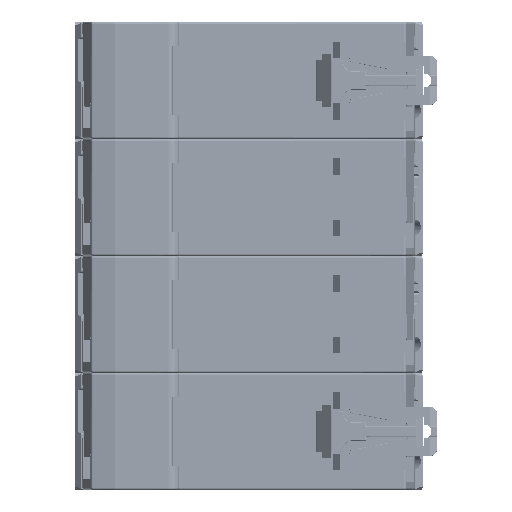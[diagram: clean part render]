
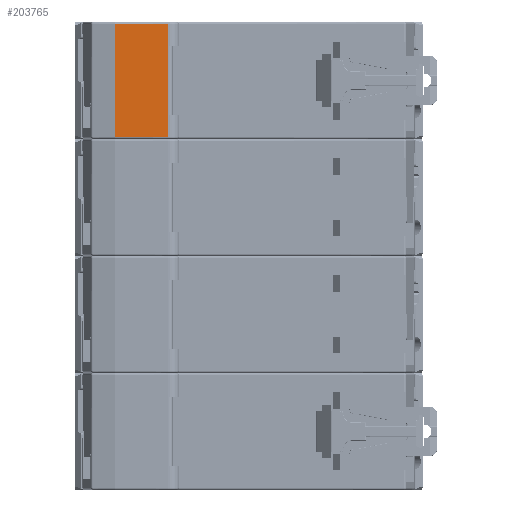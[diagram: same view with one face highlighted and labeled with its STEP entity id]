
A CAD part, left-side view. The second image highlights one B-rep face of the part: STEP entity #203765.
In plain terms, the highlighted planar face has unit normal (-1, 0, 0) as drawn and (0, -1, 0) by its records, which use the part's own axes.
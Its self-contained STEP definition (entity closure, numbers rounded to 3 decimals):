
#7398 = VERTEX_POINT ( 'NONE', #297002 ) ;
#8083 = VERTEX_POINT ( 'NONE', #162251 ) ;
#8720 = ORIENTED_EDGE ( 'NONE', *, *, #340386, .T. ) ;
#12219 = EDGE_CURVE ( 'NONE', #78553, #25550, #212366, .T. ) ;
#25550 = VERTEX_POINT ( 'NONE', #191006 ) ;
#62346 = VECTOR ( 'NONE', #348171, 1000. ) ;
#78553 = VERTEX_POINT ( 'NONE', #106053 ) ;
#82358 = AXIS2_PLACEMENT_3D ( 'NONE', #213301, #120835, #309826 ) ;
#85538 = VECTOR ( 'NONE', #137058, 1000. ) ;
#86754 = DIRECTION ( 'NONE',  ( 0., 0., -1. ) ) ;
#99667 = CARTESIAN_POINT ( 'NONE',  ( 18.5, -5.5, 21.5 ) ) ;
#103186 = CARTESIAN_POINT ( 'NONE',  ( 18.5, -5.5, 5.5 ) ) ;
#106053 = CARTESIAN_POINT ( 'NONE',  ( 30.759, -5.5, 0.5 ) ) ;
#118768 = FACE_OUTER_BOUND ( 'NONE', #194336, .T. ) ;
#120835 = DIRECTION ( 'NONE',  ( 0., 1., 0. ) ) ;
#137058 = DIRECTION ( 'NONE',  ( 0., 0., 1. ) ) ;
#144027 = VERTEX_POINT ( 'NONE', #184060 ) ;
#147627 = LINE ( 'NONE', #284006, #295640 ) ;
#149484 = EDGE_CURVE ( 'NONE', #25550, #144027, #372654, .T. ) ;
#162251 = CARTESIAN_POINT ( 'NONE',  ( 18.5, -5.5, 0.5 ) ) ;
#182976 = EDGE_CURVE ( 'NONE', #144027, #354840, #147627, .T. ) ;
#184060 = CARTESIAN_POINT ( 'NONE',  ( 18.5, -5.5, 26.5 ) ) ;
#187791 = CARTESIAN_POINT ( 'NONE',  ( 30.759, -5.5, 26.5 ) ) ;
#191006 = CARTESIAN_POINT ( 'NONE',  ( 30.759, -5.5, 26.5 ) ) ;
#194336 = EDGE_LOOP ( 'NONE', ( #8720, #252210, #206828, #350724, #199776, #389603 ) ) ;
#197691 = LINE ( 'NONE', #103186, #295775 ) ;
#199776 = ORIENTED_EDGE ( 'NONE', *, *, #182976, .T. ) ;
#203765 = ADVANCED_FACE ( 'NONE', ( #118768 ), #219472, .F. ) ;
#205935 = DIRECTION ( 'NONE',  ( 0., 0., -1. ) ) ;
#206828 = ORIENTED_EDGE ( 'NONE', *, *, #12219, .T. ) ;
#212366 = LINE ( 'NONE', #340374, #221999 ) ;
#213301 = CARTESIAN_POINT ( 'NONE',  ( 15.15, -5.5, 1.8 ) ) ;
#219472 = PLANE ( 'NONE',  #82358 ) ;
#221999 = VECTOR ( 'NONE', #401303, 1000. ) ;
#251618 = CARTESIAN_POINT ( 'NONE',  ( 18.5, -5.5, 0.5 ) ) ;
#252210 = ORIENTED_EDGE ( 'NONE', *, *, #393399, .T. ) ;
#284006 = CARTESIAN_POINT ( 'NONE',  ( 18.5, -5.5, 26.5 ) ) ;
#295640 = VECTOR ( 'NONE', #86754, 1000. ) ;
#295775 = VECTOR ( 'NONE', #205935, 1000. ) ;
#297002 = CARTESIAN_POINT ( 'NONE',  ( 18.5, -5.5, 5.5 ) ) ;
#304901 = LINE ( 'NONE', #397317, #85538 ) ;
#309826 = DIRECTION ( 'NONE',  ( 1., 0., 0. ) ) ;
#311740 = DIRECTION ( 'NONE',  ( -1., 0., 0. ) ) ;
#340374 = CARTESIAN_POINT ( 'NONE',  ( 30.759, -5.5, 0.5 ) ) ;
#340386 = EDGE_CURVE ( 'NONE', #7398, #8083, #197691, .T. ) ;
#348171 = DIRECTION ( 'NONE',  ( 1., 0., 0. ) ) ;
#350724 = ORIENTED_EDGE ( 'NONE', *, *, #149484, .T. ) ;
#354840 = VERTEX_POINT ( 'NONE', #99667 ) ;
#366933 = EDGE_CURVE ( 'NONE', #7398, #354840, #304901, .T. ) ;
#372654 = LINE ( 'NONE', #187791, #411031 ) ;
#389515 = LINE ( 'NONE', #251618, #62346 ) ;
#389603 = ORIENTED_EDGE ( 'NONE', *, *, #366933, .F. ) ;
#393399 = EDGE_CURVE ( 'NONE', #8083, #78553, #389515, .T. ) ;
#397317 = CARTESIAN_POINT ( 'NONE',  ( 18.5, -5.5, 5.5 ) ) ;
#401303 = DIRECTION ( 'NONE',  ( 0., 0., 1. ) ) ;
#411031 = VECTOR ( 'NONE', #311740, 1000. ) ;
